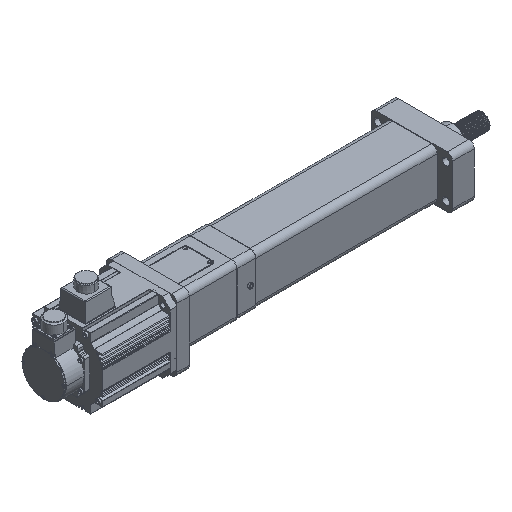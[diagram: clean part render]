
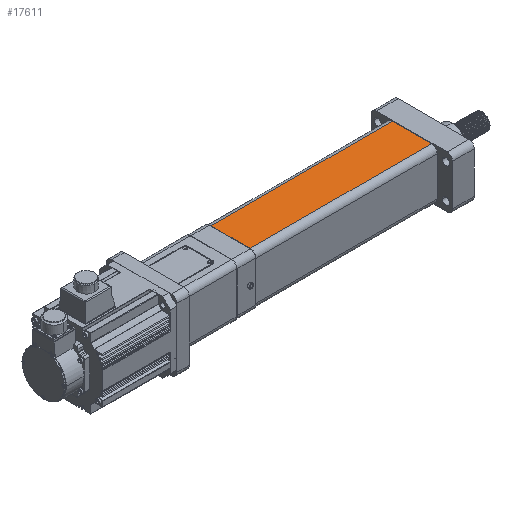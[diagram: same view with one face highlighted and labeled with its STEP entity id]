
A CAD part, isometric view. The second image highlights one B-rep face of the part: STEP entity #17611.
In plain terms, the highlighted planar face has unit normal (0, 0, 1).
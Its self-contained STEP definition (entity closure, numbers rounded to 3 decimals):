
#2411 = VERTEX_POINT ( 'NONE', #44441 ) ;
#4938 = DIRECTION ( 'NONE',  ( -1., 0., 0. ) ) ;
#8964 = DIRECTION ( 'NONE',  ( 0., -1., 0. ) ) ;
#9091 = PLANE ( 'NONE',  #40028 ) ;
#9492 = LINE ( 'NONE', #9763, #28951 ) ;
#9763 = CARTESIAN_POINT ( 'NONE',  ( 36., 117.5, 46.5 ) ) ;
#9862 = CARTESIAN_POINT ( 'NONE',  ( 36., 0., 46.5 ) ) ;
#10957 = DIRECTION ( 'NONE',  ( 1., 0., 0. ) ) ;
#12714 = EDGE_CURVE ( 'NONE', #33346, #17558, #17703, .T. ) ;
#12807 = CARTESIAN_POINT ( 'NONE',  ( 0., 0., 46.5 ) ) ;
#13274 = DIRECTION ( 'NONE',  ( 0., 0., -1. ) ) ;
#13543 = ORIENTED_EDGE ( 'NONE', *, *, #40405, .T. ) ;
#13672 = LINE ( 'NONE', #12807, #39281 ) ;
#14752 = ORIENTED_EDGE ( 'NONE', *, *, #48709, .F. ) ;
#17558 = VERTEX_POINT ( 'NONE', #22523 ) ;
#17611 = ADVANCED_FACE ( 'NONE', ( #50296 ), #9091, .F. ) ;
#17703 = LINE ( 'NONE', #51874, #38918 ) ;
#22523 = CARTESIAN_POINT ( 'NONE',  ( 36., 335., 46.5 ) ) ;
#22824 = CARTESIAN_POINT ( 'NONE',  ( -33., 0., 46.5 ) ) ;
#22935 = DIRECTION ( 'NONE',  ( 0., -1., 0. ) ) ;
#23281 = CARTESIAN_POINT ( 'NONE',  ( -36., 335., 46.5 ) ) ;
#25433 = VECTOR ( 'NONE', #8964, 1000. ) ;
#28951 = VECTOR ( 'NONE', #22935, 1000. ) ;
#33346 = VERTEX_POINT ( 'NONE', #23281 ) ;
#38918 = VECTOR ( 'NONE', #10957, 1000. ) ;
#39281 = VECTOR ( 'NONE', #54310, 1000. ) ;
#40028 = AXIS2_PLACEMENT_3D ( 'NONE', #22824, #13274, #4938 ) ;
#40405 = EDGE_CURVE ( 'NONE', #33346, #2411, #40651, .T. ) ;
#40651 = LINE ( 'NONE', #49879, #25433 ) ;
#44441 = CARTESIAN_POINT ( 'NONE',  ( -36., 0., 46.5 ) ) ;
#48705 = ORIENTED_EDGE ( 'NONE', *, *, #51745, .F. ) ;
#48709 = EDGE_CURVE ( 'NONE', #55141, #2411, #13672, .T. ) ;
#49879 = CARTESIAN_POINT ( 'NONE',  ( -36., 117.5, 46.5 ) ) ;
#50296 = FACE_OUTER_BOUND ( 'NONE', #55134, .T. ) ;
#51745 = EDGE_CURVE ( 'NONE', #17558, #55141, #9492, .T. ) ;
#51874 = CARTESIAN_POINT ( 'NONE',  ( -36., 335., 46.5 ) ) ;
#54310 = DIRECTION ( 'NONE',  ( -1., 0., 0. ) ) ;
#55134 = EDGE_LOOP ( 'NONE', ( #14752, #48705, #58709, #13543 ) ) ;
#55141 = VERTEX_POINT ( 'NONE', #9862 ) ;
#58709 = ORIENTED_EDGE ( 'NONE', *, *, #12714, .F. ) ;
